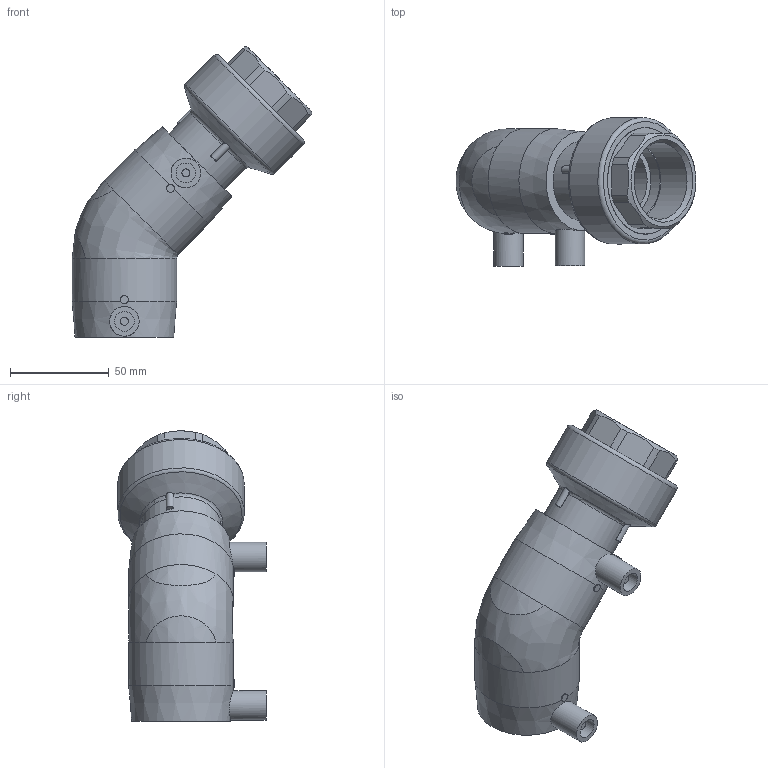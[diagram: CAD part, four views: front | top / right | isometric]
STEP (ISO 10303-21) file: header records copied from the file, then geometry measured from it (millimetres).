
FILE_DESCRIPTION(/* description */ ('Unknown'),/* implementation_level */ '2;1');
FILE_NAME(/* name */ 'GE4TFP040C',/* time_stamp */ '2021-04-26T09:13:20+02:00',/* author */ ('Unknown'),/* organization */ ('Unknown'),/* preprocessor_version */ 'ST-DEVELOPER v16.7',/* originating_system */ 'Solid Edge',/* authorisation */ 'Unknown');
FILE_SCHEMA (('AUTOMOTIVE_DESIGN {1 0 10303 214 3 1 1}'));
Length unit declared in the file: millimetre
Products named in the file (5): GE4TFP040C; GE4P040C; RTOFP040C; Parte PE 040; IOF040C
Assembly tree (4 placements, depth 3):
  GE4TFP040C
    GE4P040C
    RTOFP040C
      Parte PE 040
      IOF040C
Bounding box: 121.41 x 74.93 x 146.92 mm (x, y, z)
Volume: 193200.8 mm3; surface area: 80108 mm2
Topology: 3 solids, 3 shells, 200 faces, 486 edges, 315 vertices
Faces by surface type: plane 108, cylinder 56, bspline 19, torus 11, cone 6
Full cylindrical faces by diameter (mm): 4 x4, 10 x2, 15 x2, 32.6 x1, 38 x3, 38.952 x1, 40 x3, 42 x2, 49 x4, 49.8 x2, 53 x2, 54 x8, 64 x1
Entity records: 7125 total; most frequent: CARTESIAN_POINT 2170, DIRECTION 922, ORIENTED_EDGE 830, EDGE_CURVE 415, AXIS2_PLACEMENT_3D 379, VERTEX_POINT 292, EDGE_LOOP 273, FACE_BOUND 273
